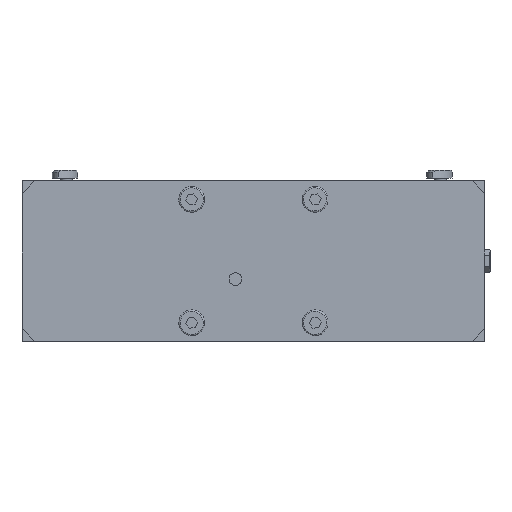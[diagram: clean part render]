
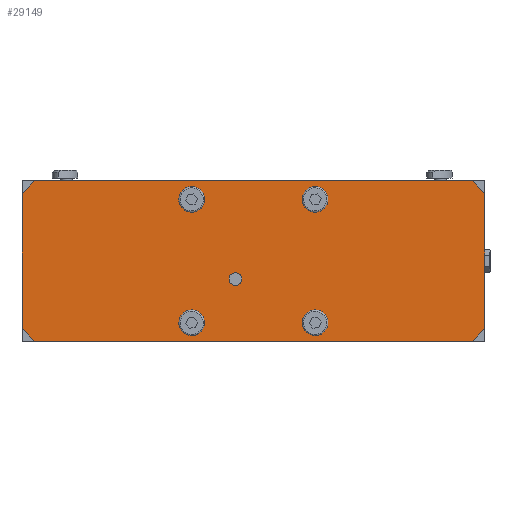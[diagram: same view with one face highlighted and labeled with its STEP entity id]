
A CAD part, front view. The second image highlights one B-rep face of the part: STEP entity #29149.
In plain terms, the highlighted planar face has unit normal (0, -1, 0).
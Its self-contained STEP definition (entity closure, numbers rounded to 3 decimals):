
#89 = VERTEX_POINT ( 'NONE', #12171 ) ;
#500 = ORIENTED_EDGE ( 'NONE', *, *, #5209, .T. ) ;
#934 = FACE_OUTER_BOUND ( 'NONE', #17541, .T. ) ;
#1430 = DIRECTION ( 'NONE',  ( 0., 0., -1. ) ) ;
#1451 = FACE_BOUND ( 'NONE', #22116, .T. ) ;
#1629 = EDGE_CURVE ( 'NONE', #14404, #1985, #10332, .T. ) ;
#1985 = VERTEX_POINT ( 'NONE', #20064 ) ;
#2120 = VERTEX_POINT ( 'NONE', #4179 ) ;
#2125 = AXIS2_PLACEMENT_3D ( 'NONE', #4530, #24987, #7550 ) ;
#2266 = ORIENTED_EDGE ( 'NONE', *, *, #29373, .F. ) ;
#2291 = EDGE_CURVE ( 'NONE', #24111, #14655, #4788, .T. ) ;
#2429 = VERTEX_POINT ( 'NONE', #13211 ) ;
#3257 = EDGE_CURVE ( 'NONE', #7842, #14404, #12398, .T. ) ;
#3391 = LINE ( 'NONE', #8086, #18672 ) ;
#3960 = CARTESIAN_POINT ( 'NONE',  ( 180., 0., -52.5 ) ) ;
#4179 = CARTESIAN_POINT ( 'NONE',  ( -14., 0., -19. ) ) ;
#4530 = CARTESIAN_POINT ( 'NONE',  ( 180., 0., -62.5 ) ) ;
#4590 = VECTOR ( 'NONE', #21515, 1000. ) ;
#4788 = LINE ( 'NONE', #22556, #31662 ) ;
#5176 = CARTESIAN_POINT ( 'NONE',  ( 48., 0., -48. ) ) ;
#5209 = EDGE_CURVE ( 'NONE', #2429, #2429, #11053, .T. ) ;
#5477 = ORIENTED_EDGE ( 'NONE', *, *, #26192, .T. ) ;
#5820 = CARTESIAN_POINT ( 'NONE',  ( -48., 0., -48. ) ) ;
#5979 = ORIENTED_EDGE ( 'NONE', *, *, #6205, .T. ) ;
#6133 = CARTESIAN_POINT ( 'NONE',  ( -170., 0., 62.5 ) ) ;
#6205 = EDGE_CURVE ( 'NONE', #9316, #14655, #3391, .T. ) ;
#6308 = ORIENTED_EDGE ( 'NONE', *, *, #18762, .T. ) ;
#6716 = CARTESIAN_POINT ( 'NONE',  ( -180., 0., -62.5 ) ) ;
#7038 = VECTOR ( 'NONE', #14445, 1000. ) ;
#7550 = DIRECTION ( 'NONE',  ( 0., 0., 1. ) ) ;
#7684 = CARTESIAN_POINT ( 'NONE',  ( 48., 0., -56. ) ) ;
#7842 = VERTEX_POINT ( 'NONE', #12655 ) ;
#8086 = CARTESIAN_POINT ( 'NONE',  ( -170., 0., -62.5 ) ) ;
#8303 = VECTOR ( 'NONE', #1430, 1000. ) ;
#9078 = CARTESIAN_POINT ( 'NONE',  ( 170., 0., -62.5 ) ) ;
#9316 = VERTEX_POINT ( 'NONE', #11313 ) ;
#9864 = DIRECTION ( 'NONE',  ( -1., 0., 0. ) ) ;
#10332 = LINE ( 'NONE', #6133, #4590 ) ;
#10664 = ORIENTED_EDGE ( 'NONE', *, *, #24607, .T. ) ;
#11053 = CIRCLE ( 'NONE', #29940, 8. ) ;
#11075 = EDGE_LOOP ( 'NONE', ( #32354 ) ) ;
#11140 = EDGE_CURVE ( 'NONE', #20714, #20714, #13490, .T. ) ;
#11313 = CARTESIAN_POINT ( 'NONE',  ( -180., 0., -52.5 ) ) ;
#12171 = CARTESIAN_POINT ( 'NONE',  ( 180., 0., 52.5 ) ) ;
#12270 = VERTEX_POINT ( 'NONE', #30172 ) ;
#12398 = LINE ( 'NONE', #33342, #29293 ) ;
#12431 = DIRECTION ( 'NONE',  ( 0., 0., -1. ) ) ;
#12655 = CARTESIAN_POINT ( 'NONE',  ( 170., 0., 62.5 ) ) ;
#13020 = CARTESIAN_POINT ( 'NONE',  ( 48., 0., 48. ) ) ;
#13211 = CARTESIAN_POINT ( 'NONE',  ( 56., 0., 48. ) ) ;
#13287 = DIRECTION ( 'NONE',  ( 0., 0., 1. ) ) ;
#13490 = CIRCLE ( 'NONE', #25427, 8. ) ;
#13658 = DIRECTION ( 'NONE',  ( 0.707, 0., -0.707 ) ) ;
#13799 = FACE_BOUND ( 'NONE', #11075, .T. ) ;
#14118 = CARTESIAN_POINT ( 'NONE',  ( 180., 0., -62.5 ) ) ;
#14159 = AXIS2_PLACEMENT_3D ( 'NONE', #28839, #16183, #13287 ) ;
#14250 = DIRECTION ( 'NONE',  ( 0.707, 0., 0.707 ) ) ;
#14404 = VERTEX_POINT ( 'NONE', #15047 ) ;
#14445 = DIRECTION ( 'NONE',  ( 0., 0., -1. ) ) ;
#14472 = LINE ( 'NONE', #6716, #8303 ) ;
#14655 = VERTEX_POINT ( 'NONE', #28479 ) ;
#14846 = ORIENTED_EDGE ( 'NONE', *, *, #27017, .F. ) ;
#15047 = CARTESIAN_POINT ( 'NONE',  ( -170., 0., 62.5 ) ) ;
#15402 = AXIS2_PLACEMENT_3D ( 'NONE', #27795, #20573, #12431 ) ;
#16183 = DIRECTION ( 'NONE',  ( 0., 1., 0. ) ) ;
#16472 = ORIENTED_EDGE ( 'NONE', *, *, #23188, .T. ) ;
#17022 = VERTEX_POINT ( 'NONE', #18828 ) ;
#17360 = CIRCLE ( 'NONE', #14159, 8. ) ;
#17504 = VECTOR ( 'NONE', #14250, 1000. ) ;
#17541 = EDGE_LOOP ( 'NONE', ( #31832, #30307, #5477, #5979, #22017, #10664, #2266, #6308 ) ) ;
#17985 = DIRECTION ( 'NONE',  ( 0., 0., -1. ) ) ;
#18290 = DIRECTION ( 'NONE',  ( 0., 1., 0. ) ) ;
#18672 = VECTOR ( 'NONE', #13658, 1000. ) ;
#18762 = EDGE_CURVE ( 'NONE', #89, #7842, #19774, .T. ) ;
#18828 = CARTESIAN_POINT ( 'NONE',  ( 180., 0., -52.5 ) ) ;
#19704 = CARTESIAN_POINT ( 'NONE',  ( -56., 0., -48. ) ) ;
#19774 = LINE ( 'NONE', #27374, #22007 ) ;
#20064 = CARTESIAN_POINT ( 'NONE',  ( -180., 0., 52.5 ) ) ;
#20489 = DIRECTION ( 'NONE',  ( 0., 1., 0. ) ) ;
#20573 = DIRECTION ( 'NONE',  ( 0., -1., 0. ) ) ;
#20714 = VERTEX_POINT ( 'NONE', #7684 ) ;
#21515 = DIRECTION ( 'NONE',  ( -0.707, 0., -0.707 ) ) ;
#22007 = VECTOR ( 'NONE', #25392, 1000. ) ;
#22017 = ORIENTED_EDGE ( 'NONE', *, *, #2291, .F. ) ;
#22116 = EDGE_LOOP ( 'NONE', ( #16472 ) ) ;
#22556 = CARTESIAN_POINT ( 'NONE',  ( 180., 0., -62.5 ) ) ;
#23188 = EDGE_CURVE ( 'NONE', #12270, #12270, #17360, .T. ) ;
#24111 = VERTEX_POINT ( 'NONE', #9078 ) ;
#24142 = FACE_BOUND ( 'NONE', #27730, .T. ) ;
#24607 = EDGE_CURVE ( 'NONE', #24111, #17022, #27089, .T. ) ;
#24650 = FACE_BOUND ( 'NONE', #31569, .T. ) ;
#24987 = DIRECTION ( 'NONE',  ( 0., 1., 0. ) ) ;
#25392 = DIRECTION ( 'NONE',  ( -0.707, 0., 0.707 ) ) ;
#25408 = DIRECTION ( 'NONE',  ( 1., 0., 0. ) ) ;
#25427 = AXIS2_PLACEMENT_3D ( 'NONE', #5176, #25820, #17985 ) ;
#25820 = DIRECTION ( 'NONE',  ( 0., 1., 0. ) ) ;
#26192 = EDGE_CURVE ( 'NONE', #1985, #9316, #14472, .T. ) ;
#26609 = DIRECTION ( 'NONE',  ( -1., 0., 0. ) ) ;
#27017 = EDGE_CURVE ( 'NONE', #2120, #2120, #29407, .T. ) ;
#27089 = LINE ( 'NONE', #3960, #17504 ) ;
#27374 = CARTESIAN_POINT ( 'NONE',  ( 180., 0., 52.5 ) ) ;
#27730 = EDGE_LOOP ( 'NONE', ( #14846 ) ) ;
#27795 = CARTESIAN_POINT ( 'NONE',  ( -14., 0., -14. ) ) ;
#28006 = EDGE_CURVE ( 'NONE', #32380, #32380, #30597, .T. ) ;
#28479 = CARTESIAN_POINT ( 'NONE',  ( -170., 0., -62.5 ) ) ;
#28839 = CARTESIAN_POINT ( 'NONE',  ( -48., 0., 48. ) ) ;
#29149 = ADVANCED_FACE ( 'NONE', ( #30005, #13799, #24650, #1451, #24142, #934 ), #32387, .F. ) ;
#29228 = ORIENTED_EDGE ( 'NONE', *, *, #28006, .T. ) ;
#29293 = VECTOR ( 'NONE', #9864, 1000. ) ;
#29373 = EDGE_CURVE ( 'NONE', #89, #17022, #32175, .T. ) ;
#29407 = CIRCLE ( 'NONE', #15402, 5. ) ;
#29542 = AXIS2_PLACEMENT_3D ( 'NONE', #5820, #18290, #26609 ) ;
#29940 = AXIS2_PLACEMENT_3D ( 'NONE', #13020, #20489, #25408 ) ;
#30005 = FACE_BOUND ( 'NONE', #33475, .T. ) ;
#30172 = CARTESIAN_POINT ( 'NONE',  ( -48., 0., 56. ) ) ;
#30298 = DIRECTION ( 'NONE',  ( -1., 0., 0. ) ) ;
#30307 = ORIENTED_EDGE ( 'NONE', *, *, #1629, .T. ) ;
#30597 = CIRCLE ( 'NONE', #29542, 8. ) ;
#31569 = EDGE_LOOP ( 'NONE', ( #29228 ) ) ;
#31662 = VECTOR ( 'NONE', #30298, 1000. ) ;
#31832 = ORIENTED_EDGE ( 'NONE', *, *, #3257, .T. ) ;
#32175 = LINE ( 'NONE', #14118, #7038 ) ;
#32354 = ORIENTED_EDGE ( 'NONE', *, *, #11140, .T. ) ;
#32380 = VERTEX_POINT ( 'NONE', #19704 ) ;
#32387 = PLANE ( 'NONE',  #2125 ) ;
#33342 = CARTESIAN_POINT ( 'NONE',  ( 180., 0., 62.5 ) ) ;
#33475 = EDGE_LOOP ( 'NONE', ( #500 ) ) ;
